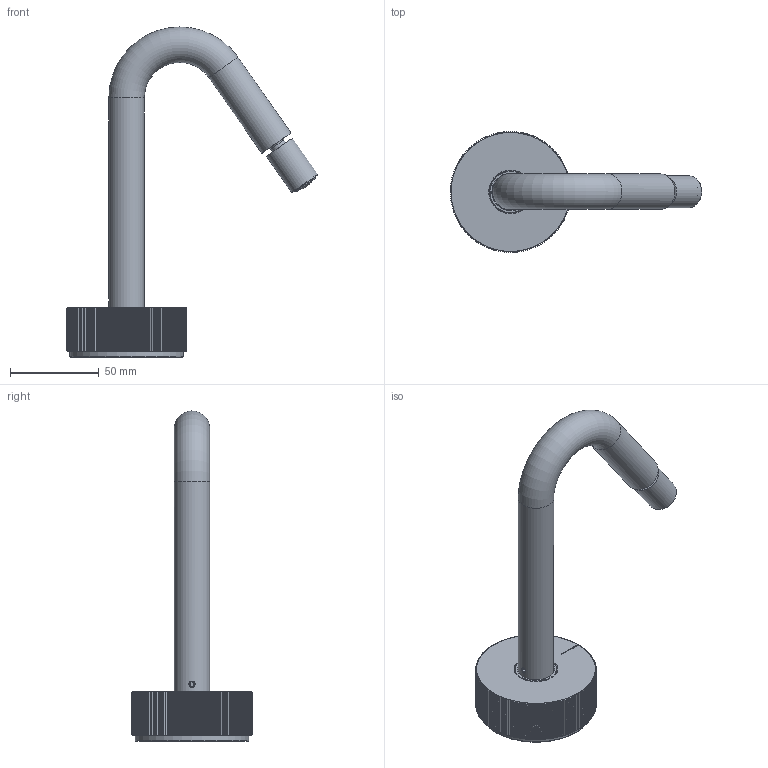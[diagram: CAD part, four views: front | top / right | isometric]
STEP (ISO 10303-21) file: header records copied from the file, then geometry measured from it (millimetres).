
FILE_DESCRIPTION(/* description */ ('Unknown'),/* implementation_level */ '2;1');
FILE_NAME(/* name */ 'RE008',/* time_stamp */ '2023-05-10T17:07:40+02:00',/* author */ ('Unknown'),/* organization */ ('Unknown'),/* preprocessor_version */ 'ST-DEVELOPER v18.102',/* originating_system */ 'Solid Edge',/* authorisation */ 'Unknown');
FILE_SCHEMA (('CONFIG_CONTROL_DESIGN','AP203_CONFIGURATION_CONTROLLED_3D_DESIGN_OF_MECHANICAL_PARTS_AND_ASSEMBLIES_MIM_LF { 1 0 10303 203 3 1 4 }','MODEL_BASED_INTEGRATED_MANUFACTURING_SCHEMA','PROCESS_PLANNING_SCHEMA','AP242_MANAGED_MODEL_BASED_3D_ENGINEERING_MIM_LF { 1 0 10303 442 1 1 4 }','AUTOMOTIVE_DESIGN {1 0 10303 214 3 1 1}'));
Length unit declared in the file: millimetre
Products named in the file (15): RE008; RE001-09; RE001-08; RE008-01; GRP-4x3; RE001-001_oa_0; RE001-03; 44.3256.450_oa_1; 44.3256.450-1; RE008-001; RE008-001-1; RE008-001-2; RE008-001-3; RE008-001-4; RE008-001-5
Assembly tree (14 placements, depth 3):
  RE008
    RE001-09
    RE001-08
    RE008-01
    GRP-4x3
    RE001-001_oa_0
      RE001-03
    44.3256.450_oa_1
      44.3256.450-1
    RE008-001
      RE008-001-1
      RE008-001-2
      RE008-001-3
      RE008-001-4
      RE008-001-5
Bounding box: 141.72 x 68 x 186 mm (x, y, z)
Volume: 69298.7 mm3; surface area: 59811.4 mm2
Topology: 11 solids, 11 shells, 1229 faces, 2769 edges, 1592 vertices
Faces by surface type: plane 530, cone 404, cylinder 240, torus 31, bspline 23, sphere 1
Full cylindrical faces by diameter (mm): 2.459 x6, 3.242 x1, 5 x3, 6.5 x1, 8 x1, 9 x1, 11.8 x1, 12.196 x1, 13.4 x2, 13.464 x1, 13.5 x2, 13.6 x1, 13.75 x1, 14.577 x1, 14.9 x1, 15 x2, 15.033 x1, 15.218 x1, 15.229 x1, 15.417 x2, 15.5 x1, 16 x1, 16.3 x1, 16.5 x3, 16.75 x1, 16.8 x1, 18 x1, 20 x2, 20.5 x1, 23.8 x1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
Entity records: 42772 total; most frequent: CARTESIAN_POINT 9228, DIRECTION 5216, ORIENTED_EDGE 5196, EDGE_CURVE 2598, AXIS2_PLACEMENT_3D 2195, VERTEX_POINT 1549, FACE_BOUND 1403, EDGE_LOOP 1398
